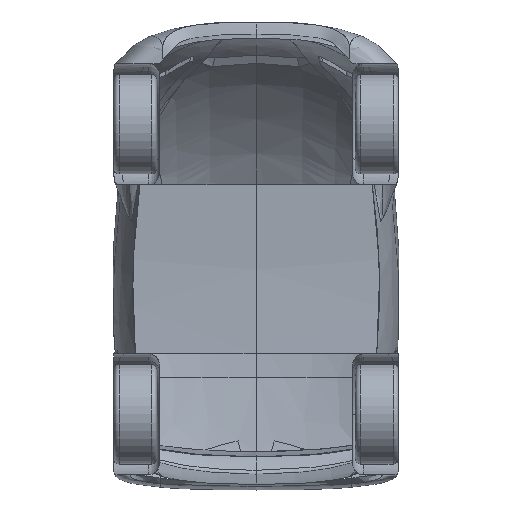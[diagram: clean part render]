
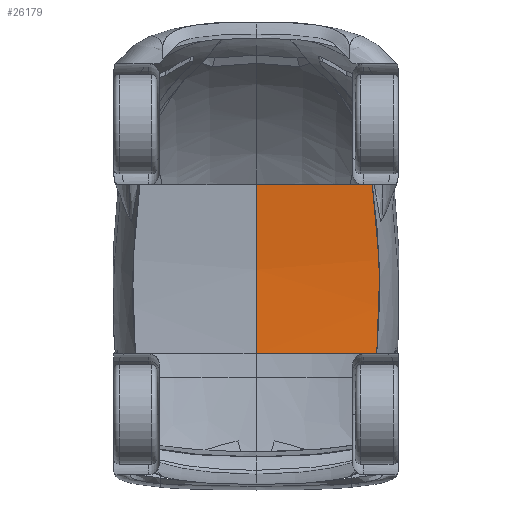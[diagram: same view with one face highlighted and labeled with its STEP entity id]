
A CAD part, front view. The second image highlights one B-rep face of the part: STEP entity #26179.
In plain terms, the highlighted free-form (B-spline) face has degree [2, 1] with [3, 2] control points.
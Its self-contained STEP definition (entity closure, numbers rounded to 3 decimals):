
#3547 = EDGE_LOOP ( 'NONE', ( #19722, #19724, #19726, #19728 ) ) ;
#19722 = ORIENTED_EDGE ( 'NONE', *, *, #47241, .F. ) ;
#19724 = ORIENTED_EDGE ( 'NONE', *, *, #47353, .F. ) ;
#19726 = ORIENTED_EDGE ( 'NONE', *, *, #47226, .T. ) ;
#19728 = ORIENTED_EDGE ( 'NONE', *, *, #47301, .T. ) ;
#21275 = VERTEX_POINT ( 'NONE', #65125 ) ;
#21277 = VERTEX_POINT ( 'NONE', #65127 ) ;
#26179 = ADVANCED_FACE ( 'NONE', ( #37752 ), #51933, .T. ) ;
#37751 = CARTESIAN_POINT ( 'NONE',  ( 464.214, 71.979, -574.24 ) ) ;
#37752 = FACE_OUTER_BOUND ( 'NONE', #3547, .T. ) ;
#37787 = CARTESIAN_POINT ( 'NONE',  ( 0., 71.979, -574.24 ) ) ;
#37790 = CARTESIAN_POINT ( 'NONE',  ( 0., 97.478, -892.62 ) ) ;
#37791 = CARTESIAN_POINT ( 'NONE',  ( 464.214, 97.478, -892.62 ) ) ;
#37792 = CARTESIAN_POINT ( 'NONE',  ( 0., 79.839, -1204.24 ) ) ;
#37793 = CARTESIAN_POINT ( 'NONE',  ( 464.214, 79.839, -1204.24 ) ) ;
#40856 = VECTOR ( 'NONE', #59122, 1000. ) ;
#41303 = VECTOR ( 'NONE', #58402, 1000. ) ;
#47226 = EDGE_CURVE ( 'NONE', #21277, #21275, #55364, .T. ) ;
#47241 = EDGE_CURVE ( 'NONE', #55784, #55740, #55375, .T. ) ;
#47301 = EDGE_CURVE ( 'NONE', #21275, #55740, #58398, .T. ) ;
#47353 = EDGE_CURVE ( 'NONE', #21277, #55784, #59102, .T. ) ;
#49386 = CARTESIAN_POINT ( 'NONE',  ( 449.401, 79.839, -1204.24 ) ) ;
#49474 = CARTESIAN_POINT ( 'NONE',  ( 432.554, 71.979, -574.24 ) ) ;
#51933 = B_SPLINE_SURFACE_WITH_KNOTS ( 'NONE', 2, 1, ( 
 ( #37787, #37751 ),
 ( #37790, #37791 ),
 ( #37792, #37793 ) ),
 .UNSPECIFIED., .F., .F., .F.,
 ( 3, 3 ),
 ( 2, 2 ),
 ( 0., 1. ),
 ( 0., 1. ),
 .UNSPECIFIED. ) ;
#55364 = B_SPLINE_CURVE_WITH_KNOTS ( 'NONE', 2,
 ( #56318, #56320, #56326 ),
 .UNSPECIFIED., .F., .F.,
 ( 3, 3 ),
 ( 0., 1. ),
 .UNSPECIFIED. ) ;
#55375 = B_SPLINE_CURVE_WITH_KNOTS ( 'NONE', 3,
 ( #56477, #56476, #56461, #56478, #56479, #56480, #56481, #56482, #56483, #56484, #56485, #56486, #56487, #56488, #56489, #56490 ),
 .UNSPECIFIED., .F., .F.,
 ( 4, 2, 2, 2, 2, 2, 2, 4 ),
 ( 0., 0.158, 0.237, 0.316, 0.356, 0.395, 0.474, 0.632 ),
 .UNSPECIFIED. ) ;
#55740 = VERTEX_POINT ( 'NONE', #49386 ) ;
#55784 = VERTEX_POINT ( 'NONE', #49474 ) ;
#56318 = CARTESIAN_POINT ( 'NONE',  ( 0., 71.979, -574.24 ) ) ;
#56320 = CARTESIAN_POINT ( 'NONE',  ( 0., 97.478, -892.62 ) ) ;
#56326 = CARTESIAN_POINT ( 'NONE',  ( 0., 79.839, -1204.24 ) ) ;
#56461 = CARTESIAN_POINT ( 'NONE',  ( 445.883, 79.478, -678.525 ) ) ;
#56476 = CARTESIAN_POINT ( 'NONE',  ( 439.996, 76.146, -626.269 ) ) ;
#56477 = CARTESIAN_POINT ( 'NONE',  ( 432.554, 71.979, -574.24 ) ) ;
#56478 = CARTESIAN_POINT ( 'NONE',  ( 452.436, 83.17, -757.248 ) ) ;
#56479 = CARTESIAN_POINT ( 'NONE',  ( 454.238, 84.181, -783.519 ) ) ;
#56480 = CARTESIAN_POINT ( 'NONE',  ( 457.089, 85.759, -836.111 ) ) ;
#56481 = CARTESIAN_POINT ( 'NONE',  ( 458.138, 86.325, -862.433 ) ) ;
#56482 = CARTESIAN_POINT ( 'NONE',  ( 459.153, 86.837, -901.957 ) ) ;
#56483 = CARTESIAN_POINT ( 'NONE',  ( 459.398, 86.951, -915.131 ) ) ;
#56484 = CARTESIAN_POINT ( 'NONE',  ( 459.703, 87.065, -941.467 ) ) ;
#56485 = CARTESIAN_POINT ( 'NONE',  ( 459.763, 87.066, -954.631 ) ) ;
#56486 = CARTESIAN_POINT ( 'NONE',  ( 459.669, 86.898, -994.111 ) ) ;
#56487 = CARTESIAN_POINT ( 'NONE',  ( 459.239, 86.558, -1020.416 ) ) ;
#56488 = CARTESIAN_POINT ( 'NONE',  ( 456.867, 84.855, -1099.28 ) ) ;
#56489 = CARTESIAN_POINT ( 'NONE',  ( 453.843, 82.808, -1151.792 ) ) ;
#56490 = CARTESIAN_POINT ( 'NONE',  ( 449.401, 79.839, -1204.24 ) ) ;
#58359 = CARTESIAN_POINT ( 'NONE',  ( 0., 79.839, -1204.24 ) ) ;
#58398 = LINE ( 'NONE', #58359, #41303 ) ;
#58402 = DIRECTION ( 'NONE',  ( 1., 0., 0. ) ) ;
#59102 = LINE ( 'NONE', #59121, #40856 ) ;
#59121 = CARTESIAN_POINT ( 'NONE',  ( 0., 71.979, -574.24 ) ) ;
#59122 = DIRECTION ( 'NONE',  ( 1., 0., 0. ) ) ;
#65125 = CARTESIAN_POINT ( 'NONE',  ( 0., 79.839, -1204.24 ) ) ;
#65127 = CARTESIAN_POINT ( 'NONE',  ( 0., 71.979, -574.24 ) ) ;
